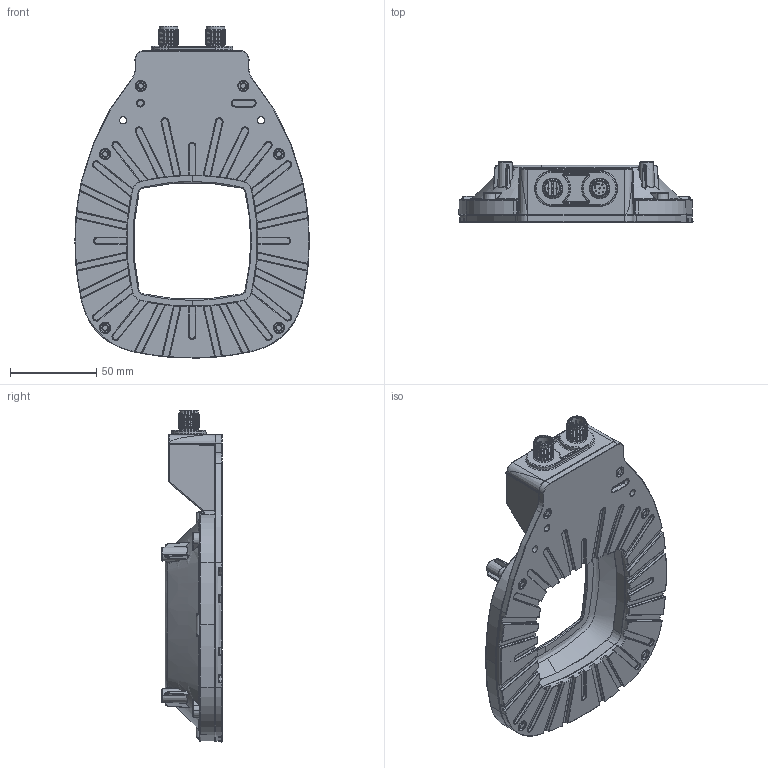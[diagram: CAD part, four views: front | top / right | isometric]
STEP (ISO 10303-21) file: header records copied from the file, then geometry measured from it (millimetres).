
FILE_DESCRIPTION (( 'STEP AP203' ), '1' );
FILE_NAME ('MR-80-LA.STEP', '2017-02-07T10:57:49', ( '' ), ( '' ), 'SwSTEP 2.0', 'SolidWorks 2014', '' );
FILE_SCHEMA (( 'CONFIG_CONTROL_DESIGN' ));
Products named in the file (1): MR-80-LA
Bounding box: 135.98 x 35 x 192.75 mm (x, y, z)
Volume: 222391.9 mm3; surface area: 84043.5 mm2
Topology: 6 solids, 16 shells, 3017 faces, 7238 edges, 4194 vertices
Faces by surface type: cylinder 960, bspline 610, plane 581, torus 555, cone 159, sphere 152
Entity records: 127344 total; most frequent: CARTESIAN_POINT 62080, ORIENTED_EDGE 14160, DIRECTION 13373, EDGE_CURVE 7080, AXIS2_PLACEMENT_3D 5549, VERTEX_POINT 4190, EDGE_LOOP 3146, CIRCLE 3141
